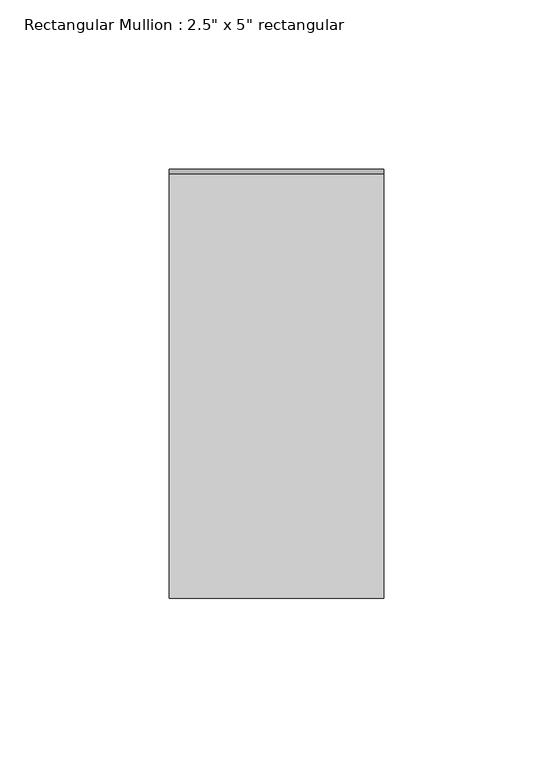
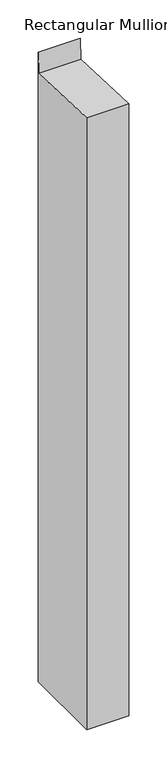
"""IFC4 building model written with IfcOpenShell, lengths in millimetres: member geometry."""

from ifc_helpers import new_model, si_unit, frame, origin, place, context, project, spatial, polyline, outline, extrude, source, transform, mapped, element, save


def member_d63420d6(model_context):
    return source(origin(), model_context, "Body", "SweptSolid", [
        extrude(outline(polyline([(-63.5, 2.7618988), (62.043738, -2.7592318), (63.5, 30.354381), (63.5, -976.0678627), (-63.5, -976.0678627), (-63.5, 2.7618988)])), frame((-63.5, 0.0, 0.0), z_axis=(1.0, 0.0, 0.0), x_axis=(0.0, 1.0, 0.0)), (0.0, 0.0, 1.0), 63.5),
    ])


if __name__ == "__main__":
    model = new_model("IFC4")
    model_context = context("Model", 3, world=origin())
    ifc_project = project(units=[si_unit("LENGTHUNIT", "METRE", prefix="MILLI")], contexts=[model_context])
    site = spatial("IfcSite", under=ifc_project)
    building = spatial("IfcBuilding", under=site)
    placement = place(None, origin())
    member_shape = member_d63420d6(model_context)
    element("IfcMember", 1, ObjectType="Rectangular Mullion : 2.5\" x 5\" rectangular", at=placement, inside=building, context=model_context, shape_type="MappedRepresentation", body=[
        mapped(member_shape, transform((0.0, 0.0, 0.0), x_axis=(1.0, 0.0, 0.0), y_axis=(0.0, 1.0, 0.0), z_axis=(0.0, 0.0, 1.0))),
    ])
    save(model, "model.ifc")
